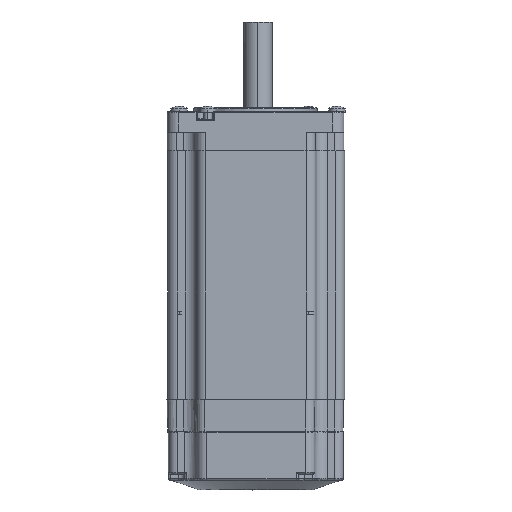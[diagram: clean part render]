
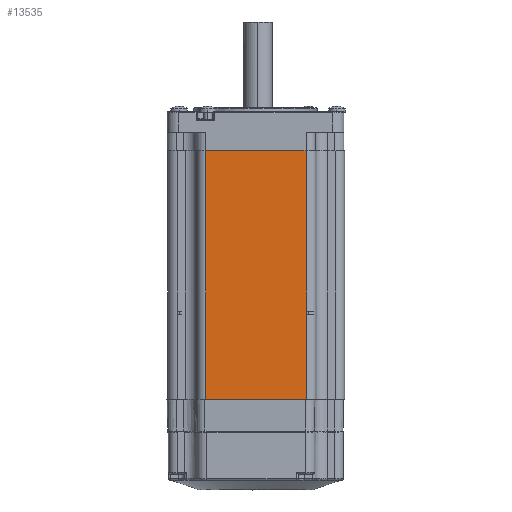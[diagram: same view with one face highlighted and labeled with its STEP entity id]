
A CAD part, front view. The second image highlights one B-rep face of the part: STEP entity #13535.
In plain terms, the highlighted planar face has unit normal (0, -1, 0).
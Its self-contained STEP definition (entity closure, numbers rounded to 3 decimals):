
#678 = EDGE_LOOP ( 'NONE', ( #42993, #42987, #43016, #42812 ) ) ;
#1670 = CARTESIAN_POINT ( 'NONE',  ( -24.5, -43., 0. ) ) ;
#1686 = CARTESIAN_POINT ( 'NONE',  ( 24.5, -43., 0. ) ) ;
#1763 = CARTESIAN_POINT ( 'NONE',  ( -24.5, -43., -121. ) ) ;
#1770 = CARTESIAN_POINT ( 'NONE',  ( 24.5, -43., -121. ) ) ;
#7633 = EDGE_CURVE ( 'NONE', #27863, #27854, #31828, .T. ) ;
#13535 = ADVANCED_FACE ( 'NONE', ( #15202 ), #30160, .T. ) ;
#15202 = FACE_OUTER_BOUND ( 'NONE', #678, .T. ) ;
#18654 = AXIS2_PLACEMENT_3D ( 'NONE', #30161, #30162, #30163 ) ;
#27854 = VERTEX_POINT ( 'NONE', #1670 ) ;
#27863 = VERTEX_POINT ( 'NONE', #1686 ) ;
#27904 = VERTEX_POINT ( 'NONE', #1763 ) ;
#27908 = VERTEX_POINT ( 'NONE', #1770 ) ;
#30160 = PLANE ( 'NONE',  #18654 ) ;
#30161 = CARTESIAN_POINT ( 'NONE',  ( -24.5, -43., -45. ) ) ;
#30162 = DIRECTION ( 'NONE',  ( 0., -1., 0. ) ) ;
#30163 = DIRECTION ( 'NONE',  ( 0., 0., -1. ) ) ;
#31828 = LINE ( 'NONE', #32384, #40807 ) ;
#32384 = CARTESIAN_POINT ( 'NONE',  ( -24.5, -43., 0. ) ) ;
#32385 = DIRECTION ( 'NONE',  ( -1., 0., 0. ) ) ;
#40807 = VECTOR ( 'NONE', #32385, 1000. ) ;
#42812 = ORIENTED_EDGE ( 'NONE', *, *, #53365, .F. ) ;
#42987 = ORIENTED_EDGE ( 'NONE', *, *, #7633, .T. ) ;
#42993 = ORIENTED_EDGE ( 'NONE', *, *, #53363, .T. ) ;
#43016 = ORIENTED_EDGE ( 'NONE', *, *, #53364, .F. ) ;
#51152 = VECTOR ( 'NONE', #72479, 1000. ) ;
#51153 = VECTOR ( 'NONE', #72481, 1000. ) ;
#51154 = VECTOR ( 'NONE', #72483, 1000. ) ;
#53363 = EDGE_CURVE ( 'NONE', #27908, #27863, #60774, .T. ) ;
#53364 = EDGE_CURVE ( 'NONE', #27904, #27854, #60775, .T. ) ;
#53365 = EDGE_CURVE ( 'NONE', #27908, #27904, #60776, .T. ) ;
#60774 = LINE ( 'NONE', #72478, #51152 ) ;
#60775 = LINE ( 'NONE', #72480, #51153 ) ;
#60776 = LINE ( 'NONE', #72482, #51154 ) ;
#72478 = CARTESIAN_POINT ( 'NONE',  ( 24.5, -43., -45. ) ) ;
#72479 = DIRECTION ( 'NONE',  ( 0., 0., 1. ) ) ;
#72480 = CARTESIAN_POINT ( 'NONE',  ( -24.5, -43., -45. ) ) ;
#72481 = DIRECTION ( 'NONE',  ( 0., 0., 1. ) ) ;
#72482 = CARTESIAN_POINT ( 'NONE',  ( 24.5, -43., -121. ) ) ;
#72483 = DIRECTION ( 'NONE',  ( -1., 0., 0. ) ) ;
